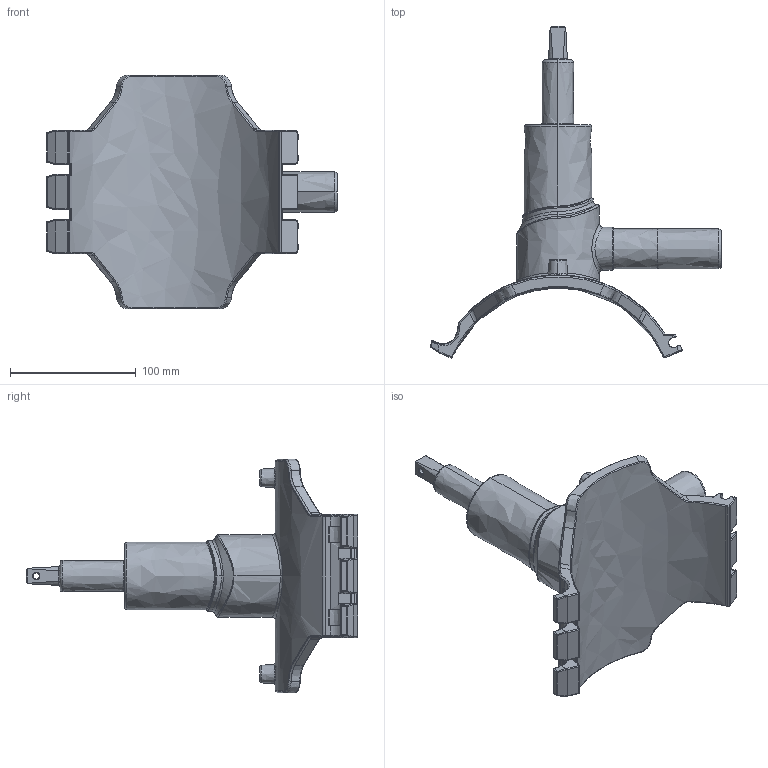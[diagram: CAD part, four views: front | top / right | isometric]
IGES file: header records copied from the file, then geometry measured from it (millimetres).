
Start section:  PTC IGES file: dav2_d180_32_01.igs
Global section: file name: dav2_d180_32_01.igs; native system: Creo Parametric by PTC Inc.; preprocessor: 2019030; author: demmerls; organization: Unknown; date: 20201126.163516; units: millimetre
Bounding box: 231.3 x 263.95 x 186 mm (x, y, z)
Surface area: 118608.9 mm2 (no closed solid volume)
Topology: 0 solids, 0 shells, 568 faces, 2762 edges, 2756 vertices
Faces by surface type: bspline 568
